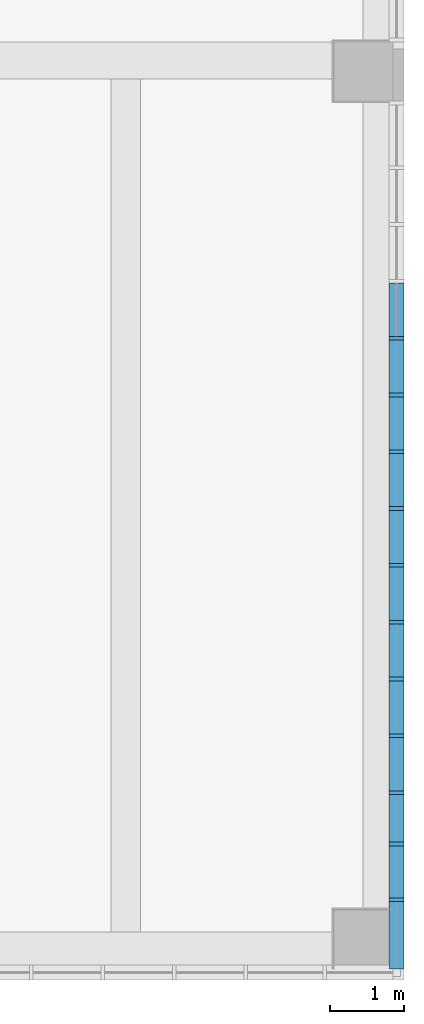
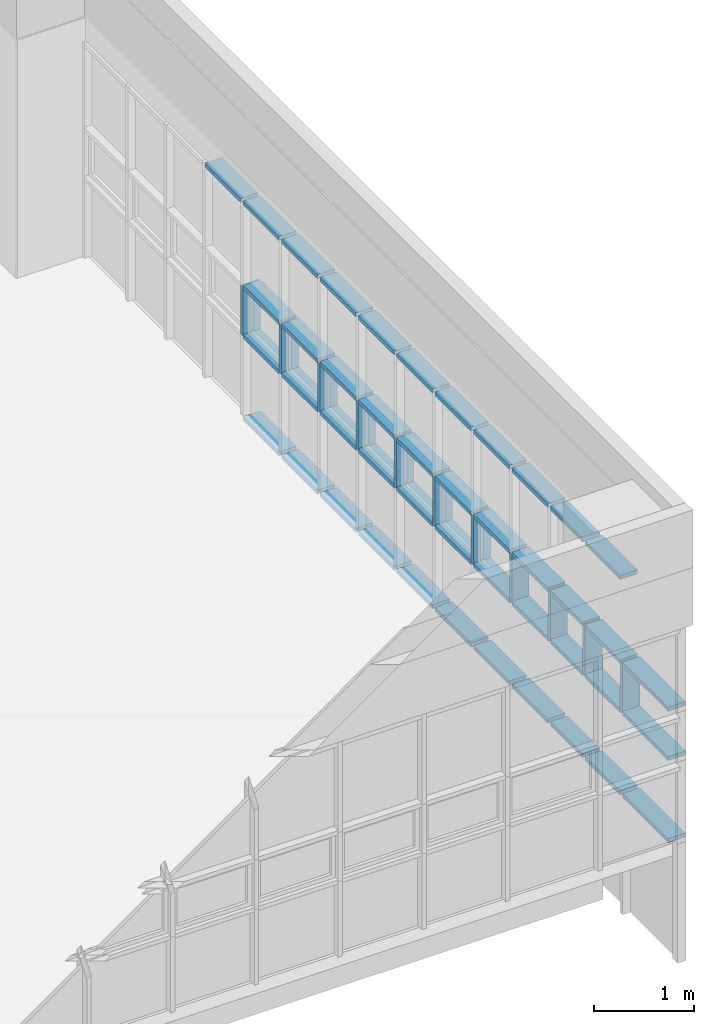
# One storey, part 19 of 81: 55 members, 1 element without a shape of its own.
"""IFC2X3 building model written with IfcOpenShell, lengths in millimetres."""

from ifc_helpers import new_model, entity, si_unit, converted_unit, derived_unit, direction, frame, origin, origin_2d_with_axis, place, context, subcontext, project, spatial, rectangle, extrude, source, transform, mapped, material, type_object, type_shapes, element, aggregate, save


model = new_model("IFC2X3")

# Units and contexts
model_context = context("Model", 3, precision=0.01, world=origin(), true_north=direction((6.123031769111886e-17, 1.0)))
body_context = subcontext(model_context, "Body", "Model", "MODEL_VIEW")
ifc_project = project(units=[si_unit("LENGTHUNIT", "METRE", prefix="MILLI"), si_unit("AREAUNIT", "SQUARE_METRE"), si_unit("VOLUMEUNIT", "CUBIC_METRE"), converted_unit("PLANEANGLEUNIT", "DEGREE", entity("IfcRatioMeasure", 0.017453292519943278), si_unit("PLANEANGLEUNIT", "RADIAN"), dimensions=[0, 0, 0, 0, 0, 0, 0]), si_unit("MASSUNIT", "GRAM", prefix="KILO"), derived_unit("MASSDENSITYUNIT", [(si_unit("MASSUNIT", "GRAM", prefix="KILO"), 1), (si_unit("LENGTHUNIT", "METRE"), -3)]), derived_unit("MOMENTOFINERTIAUNIT", [(si_unit("LENGTHUNIT", "METRE"), 4)]), si_unit("TIMEUNIT", "SECOND"), si_unit("FREQUENCYUNIT", "HERTZ"), si_unit("THERMODYNAMICTEMPERATUREUNIT", "DEGREE_CELSIUS"), derived_unit("THERMALTRANSMITTANCEUNIT", [(si_unit("MASSUNIT", "GRAM", prefix="KILO"), 1), (si_unit("THERMODYNAMICTEMPERATUREUNIT", "KELVIN"), -1), (si_unit("TIMEUNIT", "SECOND"), -3)]), derived_unit("VOLUMETRICFLOWRATEUNIT", [(si_unit("LENGTHUNIT", "METRE"), 3), (si_unit("TIMEUNIT", "SECOND"), -1)]), derived_unit("MASSFLOWRATEUNIT", [(si_unit("MASSUNIT", "GRAM", prefix="KILO"), 1), (si_unit("TIMEUNIT", "SECOND"), -1)]), derived_unit("ROTATIONALFREQUENCYUNIT", [(si_unit("TIMEUNIT", "SECOND"), -1)]), si_unit("ELECTRICCURRENTUNIT", "AMPERE"), si_unit("ELECTRICVOLTAGEUNIT", "VOLT"), si_unit("POWERUNIT", "WATT"), si_unit("FORCEUNIT", "NEWTON", prefix="KILO"), si_unit("ILLUMINANCEUNIT", "LUX"), si_unit("LUMINOUSFLUXUNIT", "LUMEN"), si_unit("LUMINOUSINTENSITYUNIT", "CANDELA"), derived_unit("USERDEFINED", [(si_unit("MASSUNIT", "GRAM", prefix="KILO"), -1), (si_unit("LENGTHUNIT", "METRE"), -2), (si_unit("TIMEUNIT", "SECOND"), 3), (si_unit("LUMINOUSFLUXUNIT", "LUMEN"), 1)]), derived_unit("SOUNDPOWERUNIT", [(si_unit("MASSUNIT", "GRAM", prefix="KILO"), 1), (si_unit("LENGTHUNIT", "METRE"), 2), (si_unit("TIMEUNIT", "SECOND"), -3)]), derived_unit("SOUNDPRESSUREUNIT", [(si_unit("MASSUNIT", "GRAM", prefix="KILO"), 1), (si_unit("LENGTHUNIT", "METRE"), -1), (si_unit("TIMEUNIT", "SECOND"), -2)]), derived_unit("LINEARVELOCITYUNIT", [(si_unit("LENGTHUNIT", "METRE"), 1), (si_unit("TIMEUNIT", "SECOND"), -1)]), si_unit("PRESSUREUNIT", "PASCAL"), derived_unit("USERDEFINED", [(si_unit("LENGTHUNIT", "METRE"), -2), (si_unit("MASSUNIT", "GRAM", prefix="KILO"), 1), (si_unit("TIMEUNIT", "SECOND"), -2)]), derived_unit("LINEARFORCEUNIT", [(si_unit("MASSUNIT", "GRAM", prefix="KILO"), 1), (si_unit("LENGTHUNIT", "METRE"), 1), (si_unit("TIMEUNIT", "SECOND"), -2), (si_unit("LENGTHUNIT", "METRE"), -1)]), derived_unit("PLANARFORCEUNIT", [(si_unit("MASSUNIT", "GRAM", prefix="KILO"), 1), (si_unit("LENGTHUNIT", "METRE"), 1), (si_unit("TIMEUNIT", "SECOND"), -2), (si_unit("LENGTHUNIT", "METRE"), -2)])], contexts=[model_context])

# Site, building, storey
site_placement = place(None, frame((-14167.972527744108, -657.2125860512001, 0.0)))
site = spatial("IfcSite", under=ifc_project, at=site_placement, Name="Default", CompositionType="ELEMENT")
building_placement = place(site_placement, origin())
building = spatial("IfcBuilding", under=site, at=building_placement, Name="Sample Building", CompositionType="ELEMENT")
storey_placement = place(building_placement, frame((0.0, 0.0, 13400.0)))
storey = spatial("IfcBuildingStorey", under=building, at=storey_placement, Name="지상 4층", CompositionType="ELEMENT", Elevation=13400.00000000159)

# Curtain wall, members
curtain_wall_type = type_object("IfcCurtainWallType", Name="커튼월:CW112-스테인리스 스틸 커튼월", PredefinedType="NOTDEFINED")
curtain_wall_placement = place(storey_placement, frame((0.0, 0.0, -13400.0)))
curtain_wall = element("IfcCurtainWall", 1, at=curtain_wall_placement, inside=storey, type_object=curtain_wall_type, Name="커튼월:CW112-스테인리스 스틸 커튼월", ObjectType="커튼월:CW112-스테인리스 스틸 커튼월")
ifc_material = material(Name="<Unnamed>")
member_type_1 = type_object("IfcMemberType", Name="직사각형 멀리언:CW200-직사각형 멀리언 50x200mm", PredefinedType="MULLION", material=ifc_material)
shared_shape_1 = source(origin(), body_context, "Body", "SweptSolid", [
    extrude(rectangle(XDim=200.0, YDim=50.0, at=origin_2d_with_axis()), frame((0.0, 0.0, -600.0), z_axis=(0.0, 0.0, 1.0), x_axis=(0.0, -1.0, 0.0)), (0.0, 0.0, 1.0), 599.9999999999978),
])
type_shapes(member_type_1, [shared_shape_1])
member_1_placement = place(curtain_wall_placement, frame((51517.96382893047, 3699.7830363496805, 14450.0), z_axis=(0.0, 0.0, -1.0), x_axis=(0.0, -1.0, 0.0)))
member_1 = element("IfcMember", 2, at=member_1_placement, type_object=member_type_1, material=ifc_material, Name="직사각형 멀리언:CW200-직사각형 멀리언 50x200mm", ObjectType="직사각형 멀리언:CW200-직사각형 멀리언 50x200mm", context=body_context, shape_type="MappedRepresentation", body=[
    mapped(shared_shape_1, transform((0.0, 0.0, 0.0), scale=1.0)),
])
member_2_placement = place(curtain_wall_placement, frame((51517.96382893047, 2933.7830363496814, 14450.0), z_axis=(0.0, 0.0, -1.0), x_axis=(0.0, -1.0, 0.0)))
member_2 = element("IfcMember", 3, at=member_2_placement, type_object=member_type_1, material=ifc_material, Name="직사각형 멀리언:CW200-직사각형 멀리언 50x200mm", ObjectType="직사각형 멀리언:CW200-직사각형 멀리언 50x200mm", context=body_context, shape_type="MappedRepresentation", body=[
    mapped(shared_shape_1, transform((0.0, 0.0, 0.0), scale=1.0)),
])
member_3_placement = place(curtain_wall_placement, frame((51517.96382893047, 2241.783036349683, 14450.0), z_axis=(0.0, 0.0, -1.0), x_axis=(0.0, -1.0, 0.0)))
member_3 = element("IfcMember", 4, at=member_3_placement, type_object=member_type_1, material=ifc_material, Name="직사각형 멀리언:CW200-직사각형 멀리언 50x200mm", ObjectType="직사각형 멀리언:CW200-직사각형 멀리언 50x200mm", context=body_context, shape_type="MappedRepresentation", body=[
    mapped(shared_shape_1, transform((0.0, 0.0, 0.0), scale=1.0)),
])
member_4_placement = place(curtain_wall_placement, frame((51517.96382893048, 1489.7830363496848, 14450.0), z_axis=(0.0, 0.0, -1.0), x_axis=(0.0, -1.0, 0.0)))
member_4 = element("IfcMember", 5, at=member_4_placement, type_object=member_type_1, material=ifc_material, Name="직사각형 멀리언:CW200-직사각형 멀리언 50x200mm", ObjectType="직사각형 멀리언:CW200-직사각형 멀리언 50x200mm", context=body_context, shape_type="MappedRepresentation", body=[
    mapped(shared_shape_1, transform((0.0, 0.0, 0.0), scale=1.0)),
])
member_5_placement = place(curtain_wall_placement, frame((51517.96382893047, 4465.78303634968, 14450.0), z_axis=(0.0, 0.0, -1.0), x_axis=(0.0, -1.0, 0.0)))
member_5 = element("IfcMember", 6, at=member_5_placement, type_object=member_type_1, material=ifc_material, Name="직사각형 멀리언:CW200-직사각형 멀리언 50x200mm", ObjectType="직사각형 멀리언:CW200-직사각형 멀리언 50x200mm", context=body_context, shape_type="MappedRepresentation", body=[
    mapped(shared_shape_1, transform((0.0, 0.0, 0.0), scale=1.0)),
])
member_6_placement = place(curtain_wall_placement, frame((51517.96382893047, 5231.783036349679, 14450.0), z_axis=(0.0, 0.0, -1.0), x_axis=(0.0, -1.0, 0.0)))
member_6 = element("IfcMember", 7, at=member_6_placement, type_object=member_type_1, material=ifc_material, Name="직사각형 멀리언:CW200-직사각형 멀리언 50x200mm", ObjectType="직사각형 멀리언:CW200-직사각형 멀리언 50x200mm", context=body_context, shape_type="MappedRepresentation", body=[
    mapped(shared_shape_1, transform((0.0, 0.0, 0.0), scale=1.0)),
])
member_7_placement = place(curtain_wall_placement, frame((51517.96382893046, 5997.783036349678, 14450.0), z_axis=(0.0, 0.0, -1.0), x_axis=(0.0, -1.0, 0.0)))
member_7 = element("IfcMember", 8, at=member_7_placement, type_object=member_type_1, material=ifc_material, Name="직사각형 멀리언:CW200-직사각형 멀리언 50x200mm", ObjectType="직사각형 멀리언:CW200-직사각형 멀리언 50x200mm", context=body_context, shape_type="MappedRepresentation", body=[
    mapped(shared_shape_1, transform((0.0, 0.0, 0.0), scale=1.0)),
])
member_8_placement = place(curtain_wall_placement, frame((51517.96382893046, 6763.783036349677, 14450.0), z_axis=(0.0, 0.0, -1.0), x_axis=(0.0, -1.0, 0.0)))
member_8 = element("IfcMember", 9, at=member_8_placement, type_object=member_type_1, material=ifc_material, Name="직사각형 멀리언:CW200-직사각형 멀리언 50x200mm", ObjectType="직사각형 멀리언:CW200-직사각형 멀리언 50x200mm", context=body_context, shape_type="MappedRepresentation", body=[
    mapped(shared_shape_1, transform((0.0, 0.0, 0.0), scale=1.0)),
])
member_9_placement = place(curtain_wall_placement, frame((51517.96382893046, 7529.783036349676, 14450.0), z_axis=(0.0, 0.0, -1.0), x_axis=(0.0, -1.0, 0.0)))
member_9 = element("IfcMember", 10, at=member_9_placement, type_object=member_type_1, material=ifc_material, Name="직사각형 멀리언:CW200-직사각형 멀리언 50x200mm", ObjectType="직사각형 멀리언:CW200-직사각형 멀리언 50x200mm", context=body_context, shape_type="MappedRepresentation", body=[
    mapped(shared_shape_1, transform((0.0, 0.0, 0.0), scale=1.0)),
])
member_10_placement = place(curtain_wall_placement, frame((51517.96382893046, 8295.783036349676, 14450.0), z_axis=(0.0, 0.0, -1.0), x_axis=(0.0, -1.0, 0.0)))
member_10 = element("IfcMember", 11, at=member_10_placement, type_object=member_type_1, material=ifc_material, Name="직사각형 멀리언:CW200-직사각형 멀리언 50x200mm", ObjectType="직사각형 멀리언:CW200-직사각형 멀리언 50x200mm", context=body_context, shape_type="MappedRepresentation", body=[
    mapped(shared_shape_1, transform((0.0, 0.0, 0.0), scale=1.0)),
])
member_11_placement = place(curtain_wall_placement, frame((51517.96382893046, 9061.783036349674, 14450.0), z_axis=(0.0, 0.0, -1.0), x_axis=(0.0, -1.0, 0.0)))
member_11 = element("IfcMember", 12, at=member_11_placement, type_object=member_type_1, material=ifc_material, Name="직사각형 멀리언:CW200-직사각형 멀리언 50x200mm", ObjectType="직사각형 멀리언:CW200-직사각형 멀리언 50x200mm", context=body_context, shape_type="MappedRepresentation", body=[
    mapped(shared_shape_1, transform((0.0, 0.0, 0.0), scale=1.0)),
])
member_type_2 = type_object("IfcMemberType", Name="직사각형 멀리언:CW200-직사각형 멀리언 50x200mm", PredefinedType="MULLION", material=ifc_material)
shared_shape_2 = source(origin(), body_context, "Body", "SweptSolid", [
    extrude(rectangle(XDim=200.0, YDim=50.0, at=origin_2d_with_axis()), frame((-25.0, 0.0, -716.0), z_axis=(0.0, 0.0, 1.0), x_axis=(0.0, -1.0, 0.0)), (0.0, 0.0, 1.0), 715.9999999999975),
])
type_shapes(member_type_2, [shared_shape_2])
member_12_placement = place(curtain_wall_placement, frame((51517.96382893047, 3724.78303634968, 16100.0), z_axis=(0.0, -1.0, 0.0), x_axis=(0.0, 0.0, 1.0)))
member_12 = element("IfcMember", 13, at=member_12_placement, type_object=member_type_2, material=ifc_material, Name="직사각형 멀리언:CW200-직사각형 멀리언 50x200mm", ObjectType="직사각형 멀리언:CW200-직사각형 멀리언 50x200mm", context=body_context, shape_type="MappedRepresentation", body=[
    mapped(shared_shape_2, transform((0.0, 0.0, 0.0), scale=1.0)),
])
member_13_placement = place(curtain_wall_placement, frame((51517.96382893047, 2958.783036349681, 16100.0), z_axis=(0.0, -1.0, 0.0), x_axis=(0.0, 0.0, 1.0)))
member_13 = element("IfcMember", 14, at=member_13_placement, type_object=member_type_2, material=ifc_material, Name="직사각형 멀리언:CW200-직사각형 멀리언 50x200mm", ObjectType="직사각형 멀리언:CW200-직사각형 멀리언 50x200mm", context=body_context, shape_type="MappedRepresentation", body=[
    mapped(shared_shape_2, transform((0.0, 0.0, 0.0), scale=1.0)),
])
member_14_placement = place(curtain_wall_placement, frame((51517.96382893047, 4490.78303634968, 16100.0), z_axis=(0.0, -1.0, 0.0), x_axis=(0.0, 0.0, 1.0)))
member_14 = element("IfcMember", 15, at=member_14_placement, type_object=member_type_2, material=ifc_material, Name="직사각형 멀리언:CW200-직사각형 멀리언 50x200mm", ObjectType="직사각형 멀리언:CW200-직사각형 멀리언 50x200mm", context=body_context, shape_type="MappedRepresentation", body=[
    mapped(shared_shape_2, transform((0.0, 0.0, 0.0), scale=1.0)),
])
member_15_placement = place(curtain_wall_placement, frame((51517.96382893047, 5256.783036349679, 16100.0), z_axis=(0.0, -1.0, 0.0), x_axis=(0.0, 0.0, 1.0)))
member_15 = element("IfcMember", 16, at=member_15_placement, type_object=member_type_2, material=ifc_material, Name="직사각형 멀리언:CW200-직사각형 멀리언 50x200mm", ObjectType="직사각형 멀리언:CW200-직사각형 멀리언 50x200mm", context=body_context, shape_type="MappedRepresentation", body=[
    mapped(shared_shape_2, transform((0.0, 0.0, 0.0), scale=1.0)),
])
member_16_placement = place(curtain_wall_placement, frame((51517.96382893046, 6022.783036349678, 16100.0), z_axis=(0.0, -1.0, 0.0), x_axis=(0.0, 0.0, 1.0)))
member_16 = element("IfcMember", 17, at=member_16_placement, type_object=member_type_2, material=ifc_material, Name="직사각형 멀리언:CW200-직사각형 멀리언 50x200mm", ObjectType="직사각형 멀리언:CW200-직사각형 멀리언 50x200mm", context=body_context, shape_type="MappedRepresentation", body=[
    mapped(shared_shape_2, transform((0.0, 0.0, 0.0), scale=1.0)),
])
member_17_placement = place(curtain_wall_placement, frame((51517.96382893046, 6788.783036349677, 16100.0), z_axis=(0.0, -1.0, 0.0), x_axis=(0.0, 0.0, 1.0)))
member_17 = element("IfcMember", 18, at=member_17_placement, type_object=member_type_2, material=ifc_material, Name="직사각형 멀리언:CW200-직사각형 멀리언 50x200mm", ObjectType="직사각형 멀리언:CW200-직사각형 멀리언 50x200mm", context=body_context, shape_type="MappedRepresentation", body=[
    mapped(shared_shape_2, transform((0.0, 0.0, 0.0), scale=1.0)),
])
member_18_placement = place(curtain_wall_placement, frame((51517.96382893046, 7554.783036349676, 16100.0), z_axis=(0.0, -1.0, 0.0), x_axis=(0.0, 0.0, 1.0)))
member_18 = element("IfcMember", 19, at=member_18_placement, type_object=member_type_2, material=ifc_material, Name="직사각형 멀리언:CW200-직사각형 멀리언 50x200mm", ObjectType="직사각형 멀리언:CW200-직사각형 멀리언 50x200mm", context=body_context, shape_type="MappedRepresentation", body=[
    mapped(shared_shape_2, transform((0.0, 0.0, 0.0), scale=1.0)),
])
member_19_placement = place(curtain_wall_placement, frame((51517.96382893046, 8320.783036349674, 16100.0), z_axis=(0.0, -1.0, 0.0), x_axis=(0.0, 0.0, 1.0)))
member_19 = element("IfcMember", 20, at=member_19_placement, type_object=member_type_2, material=ifc_material, Name="직사각형 멀리언:CW200-직사각형 멀리언 50x200mm", ObjectType="직사각형 멀리언:CW200-직사각형 멀리언 50x200mm", context=body_context, shape_type="MappedRepresentation", body=[
    mapped(shared_shape_2, transform((0.0, 0.0, 0.0), scale=1.0)),
])
member_type_3 = type_object("IfcMemberType", Name="직사각형 멀리언:CW200-직사각형 멀리언 50x200mm", PredefinedType="MULLION", material=ifc_material)
shared_shape_3 = source(origin(), body_context, "Body", "SweptSolid", [
    extrude(rectangle(XDim=200.0, YDim=50.0, at=origin_2d_with_axis()), frame((0.0, 0.0, -716.0), z_axis=(0.0, 0.0, 1.0), x_axis=(0.0, -1.0, 0.0)), (0.0, 0.0, 1.0), 715.9999999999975),
])
type_shapes(member_type_3, [shared_shape_3])
member_20_placement = place(curtain_wall_placement, frame((51517.96382893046, 8320.783036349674, 14450.0), z_axis=(0.0, -1.0, 0.0), x_axis=(0.0, 0.0, 1.0)))
member_20 = element("IfcMember", 21, at=member_20_placement, type_object=member_type_3, material=ifc_material, Name="직사각형 멀리언:CW200-직사각형 멀리언 50x200mm", ObjectType="직사각형 멀리언:CW200-직사각형 멀리언 50x200mm", context=body_context, shape_type="MappedRepresentation", body=[
    mapped(shared_shape_3, transform((0.0, 0.0, 0.0), scale=1.0)),
])
member_21_placement = place(curtain_wall_placement, frame((51517.96382893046, 8320.783036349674, 15050.0), z_axis=(0.0, -1.0, 0.0), x_axis=(0.0, 0.0, 1.0)))
member_21 = element("IfcMember", 22, at=member_21_placement, type_object=member_type_3, material=ifc_material, Name="직사각형 멀리언:CW200-직사각형 멀리언 50x200mm", ObjectType="직사각형 멀리언:CW200-직사각형 멀리언 50x200mm", context=body_context, shape_type="MappedRepresentation", body=[
    mapped(shared_shape_3, transform((0.0, 0.0, 0.0), scale=1.0)),
])
member_22_placement = place(curtain_wall_placement, frame((51517.96382893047, 2958.783036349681, 14450.0), z_axis=(0.0, -1.0, 0.0), x_axis=(0.0, 0.0, 1.0)))
member_22 = element("IfcMember", 23, at=member_22_placement, type_object=member_type_3, material=ifc_material, Name="직사각형 멀리언:CW200-직사각형 멀리언 50x200mm", ObjectType="직사각형 멀리언:CW200-직사각형 멀리언 50x200mm", context=body_context, shape_type="MappedRepresentation", body=[
    mapped(shared_shape_3, transform((0.0, 0.0, 0.0), scale=1.0)),
])
member_23_placement = place(curtain_wall_placement, frame((51517.96382893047, 2958.783036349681, 15050.0), z_axis=(0.0, -1.0, 0.0), x_axis=(0.0, 0.0, 1.0)))
member_23 = element("IfcMember", 24, at=member_23_placement, type_object=member_type_3, material=ifc_material, Name="직사각형 멀리언:CW200-직사각형 멀리언 50x200mm", ObjectType="직사각형 멀리언:CW200-직사각형 멀리언 50x200mm", context=body_context, shape_type="MappedRepresentation", body=[
    mapped(shared_shape_3, transform((0.0, 0.0, 0.0), scale=1.0)),
])
member_24_placement = place(curtain_wall_placement, frame((51517.96382893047, 3724.78303634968, 14450.0), z_axis=(0.0, -1.0, 0.0), x_axis=(0.0, 0.0, 1.0)))
member_24 = element("IfcMember", 25, at=member_24_placement, type_object=member_type_3, material=ifc_material, Name="직사각형 멀리언:CW200-직사각형 멀리언 50x200mm", ObjectType="직사각형 멀리언:CW200-직사각형 멀리언 50x200mm", context=body_context, shape_type="MappedRepresentation", body=[
    mapped(shared_shape_3, transform((0.0, 0.0, 0.0), scale=1.0)),
])
member_25_placement = place(curtain_wall_placement, frame((51517.96382893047, 3724.78303634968, 15050.0), z_axis=(0.0, -1.0, 0.0), x_axis=(0.0, 0.0, 1.0)))
member_25 = element("IfcMember", 26, at=member_25_placement, type_object=member_type_3, material=ifc_material, Name="직사각형 멀리언:CW200-직사각형 멀리언 50x200mm", ObjectType="직사각형 멀리언:CW200-직사각형 멀리언 50x200mm", context=body_context, shape_type="MappedRepresentation", body=[
    mapped(shared_shape_3, transform((0.0, 0.0, 0.0), scale=1.0)),
])
member_26_placement = place(curtain_wall_placement, frame((51517.96382893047, 4490.78303634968, 14450.0), z_axis=(0.0, -1.0, 0.0), x_axis=(0.0, 0.0, 1.0)))
member_26 = element("IfcMember", 27, at=member_26_placement, type_object=member_type_3, material=ifc_material, Name="직사각형 멀리언:CW200-직사각형 멀리언 50x200mm", ObjectType="직사각형 멀리언:CW200-직사각형 멀리언 50x200mm", context=body_context, shape_type="MappedRepresentation", body=[
    mapped(shared_shape_3, transform((0.0, 0.0, 0.0), scale=1.0)),
])
member_27_placement = place(curtain_wall_placement, frame((51517.96382893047, 4490.78303634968, 15050.0), z_axis=(0.0, -1.0, 0.0), x_axis=(0.0, 0.0, 1.0)))
member_27 = element("IfcMember", 28, at=member_27_placement, type_object=member_type_3, material=ifc_material, Name="직사각형 멀리언:CW200-직사각형 멀리언 50x200mm", ObjectType="직사각형 멀리언:CW200-직사각형 멀리언 50x200mm", context=body_context, shape_type="MappedRepresentation", body=[
    mapped(shared_shape_3, transform((0.0, 0.0, 0.0), scale=1.0)),
])
member_28_placement = place(curtain_wall_placement, frame((51517.96382893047, 5256.783036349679, 14450.0), z_axis=(0.0, -1.0, 0.0), x_axis=(0.0, 0.0, 1.0)))
member_28 = element("IfcMember", 29, at=member_28_placement, type_object=member_type_3, material=ifc_material, Name="직사각형 멀리언:CW200-직사각형 멀리언 50x200mm", ObjectType="직사각형 멀리언:CW200-직사각형 멀리언 50x200mm", context=body_context, shape_type="MappedRepresentation", body=[
    mapped(shared_shape_3, transform((0.0, 0.0, 0.0), scale=1.0)),
])
member_29_placement = place(curtain_wall_placement, frame((51517.96382893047, 5256.783036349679, 15050.0), z_axis=(0.0, -1.0, 0.0), x_axis=(0.0, 0.0, 1.0)))
member_29 = element("IfcMember", 30, at=member_29_placement, type_object=member_type_3, material=ifc_material, Name="직사각형 멀리언:CW200-직사각형 멀리언 50x200mm", ObjectType="직사각형 멀리언:CW200-직사각형 멀리언 50x200mm", context=body_context, shape_type="MappedRepresentation", body=[
    mapped(shared_shape_3, transform((0.0, 0.0, 0.0), scale=1.0)),
])
member_30_placement = place(curtain_wall_placement, frame((51517.96382893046, 6022.783036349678, 14450.0), z_axis=(0.0, -1.0, 0.0), x_axis=(0.0, 0.0, 1.0)))
member_30 = element("IfcMember", 31, at=member_30_placement, type_object=member_type_3, material=ifc_material, Name="직사각형 멀리언:CW200-직사각형 멀리언 50x200mm", ObjectType="직사각형 멀리언:CW200-직사각형 멀리언 50x200mm", context=body_context, shape_type="MappedRepresentation", body=[
    mapped(shared_shape_3, transform((0.0, 0.0, 0.0), scale=1.0)),
])
member_31_placement = place(curtain_wall_placement, frame((51517.96382893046, 6022.783036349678, 15050.0), z_axis=(0.0, -1.0, 0.0), x_axis=(0.0, 0.0, 1.0)))
member_31 = element("IfcMember", 32, at=member_31_placement, type_object=member_type_3, material=ifc_material, Name="직사각형 멀리언:CW200-직사각형 멀리언 50x200mm", ObjectType="직사각형 멀리언:CW200-직사각형 멀리언 50x200mm", context=body_context, shape_type="MappedRepresentation", body=[
    mapped(shared_shape_3, transform((0.0, 0.0, 0.0), scale=1.0)),
])
member_32_placement = place(curtain_wall_placement, frame((51517.96382893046, 6788.783036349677, 14450.0), z_axis=(0.0, -1.0, 0.0), x_axis=(0.0, 0.0, 1.0)))
member_32 = element("IfcMember", 33, at=member_32_placement, type_object=member_type_3, material=ifc_material, Name="직사각형 멀리언:CW200-직사각형 멀리언 50x200mm", ObjectType="직사각형 멀리언:CW200-직사각형 멀리언 50x200mm", context=body_context, shape_type="MappedRepresentation", body=[
    mapped(shared_shape_3, transform((0.0, 0.0, 0.0), scale=1.0)),
])
member_33_placement = place(curtain_wall_placement, frame((51517.96382893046, 6788.783036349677, 15050.0), z_axis=(0.0, -1.0, 0.0), x_axis=(0.0, 0.0, 1.0)))
member_33 = element("IfcMember", 34, at=member_33_placement, type_object=member_type_3, material=ifc_material, Name="직사각형 멀리언:CW200-직사각형 멀리언 50x200mm", ObjectType="직사각형 멀리언:CW200-직사각형 멀리언 50x200mm", context=body_context, shape_type="MappedRepresentation", body=[
    mapped(shared_shape_3, transform((0.0, 0.0, 0.0), scale=1.0)),
])
member_34_placement = place(curtain_wall_placement, frame((51517.96382893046, 7554.783036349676, 14450.0), z_axis=(0.0, -1.0, 0.0), x_axis=(0.0, 0.0, 1.0)))
member_34 = element("IfcMember", 35, at=member_34_placement, type_object=member_type_3, material=ifc_material, Name="직사각형 멀리언:CW200-직사각형 멀리언 50x200mm", ObjectType="직사각형 멀리언:CW200-직사각형 멀리언 50x200mm", context=body_context, shape_type="MappedRepresentation", body=[
    mapped(shared_shape_3, transform((0.0, 0.0, 0.0), scale=1.0)),
])
member_35_placement = place(curtain_wall_placement, frame((51517.96382893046, 7554.783036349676, 15050.0), z_axis=(0.0, -1.0, 0.0), x_axis=(0.0, 0.0, 1.0)))
member_35 = element("IfcMember", 36, at=member_35_placement, type_object=member_type_3, material=ifc_material, Name="직사각형 멀리언:CW200-직사각형 멀리언 50x200mm", ObjectType="직사각형 멀리언:CW200-직사각형 멀리언 50x200mm", context=body_context, shape_type="MappedRepresentation", body=[
    mapped(shared_shape_3, transform((0.0, 0.0, 0.0), scale=1.0)),
])
member_type_4 = type_object("IfcMemberType", Name="직사각형 멀리언:CW200-직사각형 멀리언 50x200mm", PredefinedType="MULLION", material=ifc_material)
shared_shape_4 = source(origin(), body_context, "Body", "SweptSolid", [
    extrude(rectangle(XDim=200.0, YDim=50.0, at=origin_2d_with_axis()), frame((0.0, 0.0, -642.0), z_axis=(0.0, 0.0, 1.0), x_axis=(0.0, -1.0, 0.0)), (0.0, 0.0, 1.0), 641.9999999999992),
])
type_shapes(member_type_4, [shared_shape_4])
member_36_placement = place(curtain_wall_placement, frame((51517.96382893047, 2266.783036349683, 14450.0), z_axis=(0.0, -1.0, 0.0), x_axis=(0.0, 0.0, 1.0)))
member_36 = element("IfcMember", 37, at=member_36_placement, type_object=member_type_4, material=ifc_material, Name="직사각형 멀리언:CW200-직사각형 멀리언 50x200mm", ObjectType="직사각형 멀리언:CW200-직사각형 멀리언 50x200mm", context=body_context, shape_type="MappedRepresentation", body=[
    mapped(shared_shape_4, transform((0.0, 0.0, 0.0), scale=1.0)),
])
member_37_placement = place(curtain_wall_placement, frame((51517.96382893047, 2266.783036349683, 15050.0), z_axis=(0.0, -1.0, 0.0), x_axis=(0.0, 0.0, 1.0)))
member_37 = element("IfcMember", 38, at=member_37_placement, type_object=member_type_4, material=ifc_material, Name="직사각형 멀리언:CW200-직사각형 멀리언 50x200mm", ObjectType="직사각형 멀리언:CW200-직사각형 멀리언 50x200mm", context=body_context, shape_type="MappedRepresentation", body=[
    mapped(shared_shape_4, transform((0.0, 0.0, 0.0), scale=1.0)),
])
member_type_5 = type_object("IfcMemberType", Name="직사각형 멀리언:CW200-직사각형 멀리언 50x200mm", PredefinedType="MULLION", material=ifc_material)
shared_shape_5 = source(origin(), body_context, "Body", "SweptSolid", [
    extrude(rectangle(XDim=200.0, YDim=50.0, at=origin_2d_with_axis()), frame((-25.0, 0.0, -642.0), z_axis=(0.0, 0.0, 1.0), x_axis=(0.0, -1.0, 0.0)), (0.0, 0.0, 1.0), 641.9999999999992),
])
type_shapes(member_type_5, [shared_shape_5])
member_38_placement = place(curtain_wall_placement, frame((51517.96382893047, 2266.783036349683, 16100.0), z_axis=(0.0, -1.0, 0.0), x_axis=(0.0, 0.0, 1.0)))
member_38 = element("IfcMember", 39, at=member_38_placement, type_object=member_type_5, material=ifc_material, Name="직사각형 멀리언:CW200-직사각형 멀리언 50x200mm", ObjectType="직사각형 멀리언:CW200-직사각형 멀리언 50x200mm", context=body_context, shape_type="MappedRepresentation", body=[
    mapped(shared_shape_5, transform((0.0, 0.0, 0.0), scale=1.0)),
])
member_type_6 = type_object("IfcMemberType", Name="직사각형 멀리언:CW200-직사각형 멀리언 50x200mm", PredefinedType="MULLION", material=ifc_material)
shared_shape_6 = source(origin(), body_context, "Body", "SweptSolid", [
    extrude(rectangle(XDim=200.0, YDim=50.0, at=origin_2d_with_axis()), frame((0.0, 0.0, -702.0), z_axis=(0.0, 0.0, 1.0), x_axis=(0.0, -1.0, 0.0)), (0.0, 0.0, 1.0), 701.9999999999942),
])
type_shapes(member_type_6, [shared_shape_6])
member_39_placement = place(curtain_wall_placement, frame((51517.96382893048, 1514.7830363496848, 14450.0), z_axis=(0.0, -1.0, 0.0), x_axis=(0.0, 0.0, 1.0)))
member_39 = element("IfcMember", 40, at=member_39_placement, type_object=member_type_6, material=ifc_material, Name="직사각형 멀리언:CW200-직사각형 멀리언 50x200mm", ObjectType="직사각형 멀리언:CW200-직사각형 멀리언 50x200mm", context=body_context, shape_type="MappedRepresentation", body=[
    mapped(shared_shape_6, transform((0.0, 0.0, 0.0), scale=1.0)),
])
member_40_placement = place(curtain_wall_placement, frame((51517.96382893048, 1514.7830363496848, 15050.0), z_axis=(0.0, -1.0, 0.0), x_axis=(0.0, 0.0, 1.0)))
member_40 = element("IfcMember", 41, at=member_40_placement, type_object=member_type_6, material=ifc_material, Name="직사각형 멀리언:CW200-직사각형 멀리언 50x200mm", ObjectType="직사각형 멀리언:CW200-직사각형 멀리언 50x200mm", context=body_context, shape_type="MappedRepresentation", body=[
    mapped(shared_shape_6, transform((0.0, 0.0, 0.0), scale=1.0)),
])
member_type_7 = type_object("IfcMemberType", Name="직사각형 멀리언:CW200-직사각형 멀리언 50x200mm", PredefinedType="MULLION", material=ifc_material)
shared_shape_7 = source(origin(), body_context, "Body", "SweptSolid", [
    extrude(rectangle(XDim=200.0, YDim=50.0, at=origin_2d_with_axis()), frame((-25.0, 0.0, -702.0), z_axis=(0.0, 0.0, 1.0), x_axis=(0.0, -1.0, 0.0)), (0.0, 0.0, 1.0), 701.9999999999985),
])
type_shapes(member_type_7, [shared_shape_7])
member_41_placement = place(curtain_wall_placement, frame((51517.96382893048, 1514.7830363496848, 16100.0), z_axis=(0.0, -1.0, 0.0), x_axis=(0.0, 0.0, 1.0)))
member_41 = element("IfcMember", 42, at=member_41_placement, type_object=member_type_7, material=ifc_material, Name="직사각형 멀리언:CW200-직사각형 멀리언 50x200mm", ObjectType="직사각형 멀리언:CW200-직사각형 멀리언 50x200mm", context=body_context, shape_type="MappedRepresentation", body=[
    mapped(shared_shape_7, transform((0.0, 0.0, 0.0), scale=1.0)),
])
member_type_8 = type_object("IfcMemberType", Name="직사각형 멀리언:CW200-직사각형 멀리언 50x200mm", PredefinedType="MULLION", material=ifc_material)
shared_shape_8 = source(origin(), body_context, "Body", "SweptSolid", [
    extrude(rectangle(XDim=200.0, YDim=50.0, at=origin_2d_with_axis()), frame((0.0, 0.0, -716.0), z_axis=(0.0, 0.0, 1.0), x_axis=(0.0, -1.0, 0.0)), (0.0, 0.0, 1.0), 715.9999999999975),
])
type_shapes(member_type_8, [shared_shape_8])
member_42_placement = place(curtain_wall_placement, frame((51517.96382893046, 8320.783036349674, 13450.0), z_axis=(0.0, -1.0, 0.0), x_axis=(0.0, 0.0, 1.0)))
member_42 = element("IfcMember", 43, at=member_42_placement, type_object=member_type_8, material=ifc_material, Name="직사각형 멀리언:CW200-직사각형 멀리언 50x200mm", ObjectType="직사각형 멀리언:CW200-직사각형 멀리언 50x200mm", context=body_context, shape_type="MappedRepresentation", body=[
    mapped(shared_shape_8, transform((0.0, 0.0, 0.0), scale=1.0)),
])
member_43_placement = place(curtain_wall_placement, frame((51517.96382893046, 7554.783036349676, 13450.0), z_axis=(0.0, -1.0, 0.0), x_axis=(0.0, 0.0, 1.0)))
member_43 = element("IfcMember", 44, at=member_43_placement, type_object=member_type_8, material=ifc_material, Name="직사각형 멀리언:CW200-직사각형 멀리언 50x200mm", ObjectType="직사각형 멀리언:CW200-직사각형 멀리언 50x200mm", context=body_context, shape_type="MappedRepresentation", body=[
    mapped(shared_shape_8, transform((0.0, 0.0, 0.0), scale=1.0)),
])
member_44_placement = place(curtain_wall_placement, frame((51517.96382893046, 6788.783036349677, 13450.0), z_axis=(0.0, -1.0, 0.0), x_axis=(0.0, 0.0, 1.0)))
member_44 = element("IfcMember", 45, at=member_44_placement, type_object=member_type_8, material=ifc_material, Name="직사각형 멀리언:CW200-직사각형 멀리언 50x200mm", ObjectType="직사각형 멀리언:CW200-직사각형 멀리언 50x200mm", context=body_context, shape_type="MappedRepresentation", body=[
    mapped(shared_shape_8, transform((0.0, 0.0, 0.0), scale=1.0)),
])
member_45_placement = place(curtain_wall_placement, frame((51517.96382893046, 6022.783036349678, 13450.0), z_axis=(0.0, -1.0, 0.0), x_axis=(0.0, 0.0, 1.0)))
member_45 = element("IfcMember", 46, at=member_45_placement, type_object=member_type_8, material=ifc_material, Name="직사각형 멀리언:CW200-직사각형 멀리언 50x200mm", ObjectType="직사각형 멀리언:CW200-직사각형 멀리언 50x200mm", context=body_context, shape_type="MappedRepresentation", body=[
    mapped(shared_shape_8, transform((0.0, 0.0, 0.0), scale=1.0)),
])
member_46_placement = place(curtain_wall_placement, frame((51517.96382893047, 5256.783036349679, 13450.0), z_axis=(0.0, -1.0, 0.0), x_axis=(0.0, 0.0, 1.0)))
member_46 = element("IfcMember", 47, at=member_46_placement, type_object=member_type_8, material=ifc_material, Name="직사각형 멀리언:CW200-직사각형 멀리언 50x200mm", ObjectType="직사각형 멀리언:CW200-직사각형 멀리언 50x200mm", context=body_context, shape_type="MappedRepresentation", body=[
    mapped(shared_shape_8, transform((0.0, 0.0, 0.0), scale=1.0)),
])
member_47_placement = place(curtain_wall_placement, frame((51517.96382893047, 4490.78303634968, 13450.0), z_axis=(0.0, -1.0, 0.0), x_axis=(0.0, 0.0, 1.0)))
member_47 = element("IfcMember", 48, at=member_47_placement, type_object=member_type_8, material=ifc_material, Name="직사각형 멀리언:CW200-직사각형 멀리언 50x200mm", ObjectType="직사각형 멀리언:CW200-직사각형 멀리언 50x200mm", context=body_context, shape_type="MappedRepresentation", body=[
    mapped(shared_shape_8, transform((0.0, 0.0, 0.0), scale=1.0)),
])
member_48_placement = place(curtain_wall_placement, frame((51517.96382893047, 3724.78303634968, 13450.0), z_axis=(0.0, -1.0, 0.0), x_axis=(0.0, 0.0, 1.0)))
member_48 = element("IfcMember", 49, at=member_48_placement, type_object=member_type_8, material=ifc_material, Name="직사각형 멀리언:CW200-직사각형 멀리언 50x200mm", ObjectType="직사각형 멀리언:CW200-직사각형 멀리언 50x200mm", context=body_context, shape_type="MappedRepresentation", body=[
    mapped(shared_shape_8, transform((0.0, 0.0, 0.0), scale=1.0)),
])
member_49_placement = place(curtain_wall_placement, frame((51517.96382893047, 2958.783036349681, 13450.0), z_axis=(0.0, -1.0, 0.0), x_axis=(0.0, 0.0, 1.0)))
member_49 = element("IfcMember", 50, at=member_49_placement, type_object=member_type_8, material=ifc_material, Name="직사각형 멀리언:CW200-직사각형 멀리언 50x200mm", ObjectType="직사각형 멀리언:CW200-직사각형 멀리언 50x200mm", context=body_context, shape_type="MappedRepresentation", body=[
    mapped(shared_shape_8, transform((0.0, 0.0, 0.0), scale=1.0)),
])
member_type_9 = type_object("IfcMemberType", Name="직사각형 멀리언:CW200-직사각형 멀리언 50x200mm", PredefinedType="MULLION", material=ifc_material)
shared_shape_9 = source(origin(), body_context, "Body", "SweptSolid", [
    extrude(rectangle(XDim=200.0, YDim=50.0, at=origin_2d_with_axis()), frame((-25.0, 0.0, -716.0), z_axis=(0.0, 0.0, 1.0), x_axis=(0.0, -1.0, 0.0)), (0.0, 0.0, 1.0), 715.9999999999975),
])
type_shapes(member_type_9, [shared_shape_9])
member_50_placement = place(curtain_wall_placement, frame((51517.96382893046, 9086.783036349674, 16100.0), z_axis=(0.0, -1.0, 0.0), x_axis=(0.0, 0.0, 1.0)))
member_50 = element("IfcMember", 51, at=member_50_placement, type_object=member_type_9, material=ifc_material, Name="직사각형 멀리언:CW200-직사각형 멀리언 50x200mm", ObjectType="직사각형 멀리언:CW200-직사각형 멀리언 50x200mm", context=body_context, shape_type="MappedRepresentation", body=[
    mapped(shared_shape_9, transform((0.0, 0.0, 0.0), scale=1.0)),
])
member_type_10 = type_object("IfcMemberType", Name="직사각형 멀리언:CW200-직사각형 멀리언 50x200mm", PredefinedType="MULLION", material=ifc_material)
shared_shape_10 = source(origin(), body_context, "Body", "SweptSolid", [
    extrude(rectangle(XDim=200.0, YDim=50.0, at=origin_2d_with_axis()), frame((0.0, 0.0, -907.605411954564), z_axis=(0.0, 0.0, 1.0), x_axis=(0.0, -1.0, 0.0)), (0.0, 0.0, 1.0), 907.605411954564),
])
type_shapes(member_type_10, [shared_shape_10])
member_51_placement = place(curtain_wall_placement, frame((51517.96382893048, 557.177624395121, 14450.0), z_axis=(0.0, -1.0, 0.0), x_axis=(0.0, 0.0, 1.0)))
member_51 = element("IfcMember", 52, at=member_51_placement, type_object=member_type_10, material=ifc_material, Name="직사각형 멀리언:CW200-직사각형 멀리언 50x200mm", ObjectType="직사각형 멀리언:CW200-직사각형 멀리언 50x200mm", context=body_context, shape_type="MappedRepresentation", body=[
    mapped(shared_shape_10, transform((0.0, 0.0, 0.0), scale=1.0)),
])
member_52_placement = place(curtain_wall_placement, frame((51517.96382893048, 557.177624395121, 15050.0), z_axis=(0.0, -1.0, 0.0), x_axis=(0.0, 0.0, 1.0)))
member_52 = element("IfcMember", 53, at=member_52_placement, type_object=member_type_10, material=ifc_material, Name="직사각형 멀리언:CW200-직사각형 멀리언 50x200mm", ObjectType="직사각형 멀리언:CW200-직사각형 멀리언 50x200mm", context=body_context, shape_type="MappedRepresentation", body=[
    mapped(shared_shape_10, transform((0.0, 0.0, 0.0), scale=1.0)),
])
member_type_11 = type_object("IfcMemberType", Name="직사각형 멀리언:CW200-직사각형 멀리언 50x200mm", PredefinedType="MULLION", material=ifc_material)
shared_shape_11 = source(origin(), body_context, "Body", "SweptSolid", [
    extrude(rectangle(XDim=200.0, YDim=50.0, at=origin_2d_with_axis()), frame((0.0, 0.0, -642.0), z_axis=(0.0, 0.0, 1.0), x_axis=(0.0, -1.0, 0.0)), (0.0, 0.0, 1.0), 641.9999999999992),
])
type_shapes(member_type_11, [shared_shape_11])
member_53_placement = place(curtain_wall_placement, frame((51517.96382893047, 2266.783036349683, 13450.0), z_axis=(0.0, -1.0, 0.0), x_axis=(0.0, 0.0, 1.0)))
member_53 = element("IfcMember", 54, at=member_53_placement, type_object=member_type_11, material=ifc_material, Name="직사각형 멀리언:CW200-직사각형 멀리언 50x200mm", ObjectType="직사각형 멀리언:CW200-직사각형 멀리언 50x200mm", context=body_context, shape_type="MappedRepresentation", body=[
    mapped(shared_shape_11, transform((0.0, 0.0, 0.0), scale=1.0)),
])
member_type_12 = type_object("IfcMemberType", Name="직사각형 멀리언:CW200-직사각형 멀리언 50x200mm", PredefinedType="MULLION", material=ifc_material)
shared_shape_12 = source(origin(), body_context, "Body", "SweptSolid", [
    extrude(rectangle(XDim=200.0, YDim=50.0, at=origin_2d_with_axis()), frame((0.0, 0.0, -702.0), z_axis=(0.0, 0.0, 1.0), x_axis=(0.0, -1.0, 0.0)), (0.0, 0.0, 1.0), 701.9999999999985),
])
type_shapes(member_type_12, [shared_shape_12])
member_54_placement = place(curtain_wall_placement, frame((51517.96382893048, 1514.7830363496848, 13450.0), z_axis=(0.0, -1.0, 0.0), x_axis=(0.0, 0.0, 1.0)))
member_54 = element("IfcMember", 55, at=member_54_placement, type_object=member_type_12, material=ifc_material, Name="직사각형 멀리언:CW200-직사각형 멀리언 50x200mm", ObjectType="직사각형 멀리언:CW200-직사각형 멀리언 50x200mm", context=body_context, shape_type="MappedRepresentation", body=[
    mapped(shared_shape_12, transform((0.0, 0.0, 0.0), scale=1.0)),
])
member_type_13 = type_object("IfcMemberType", Name="직사각형 멀리언:CW200-직사각형 멀리언 50x200mm", PredefinedType="MULLION", material=ifc_material)
shared_shape_13 = source(origin(), body_context, "Body", "SweptSolid", [
    extrude(rectangle(XDim=200.0, YDim=50.0, at=origin_2d_with_axis()), frame((0.0, 0.0, -907.605411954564), z_axis=(0.0, 0.0, 1.0), x_axis=(0.0, -1.0, 0.0)), (0.0, 0.0, 1.0), 907.605411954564),
])
type_shapes(member_type_13, [shared_shape_13])
member_55_placement = place(curtain_wall_placement, frame((51517.96382893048, 557.177624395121, 13450.0), z_axis=(0.0, -1.0, 0.0), x_axis=(0.0, 0.0, 1.0)))
member_55 = element("IfcMember", 56, at=member_55_placement, type_object=member_type_13, material=ifc_material, Name="직사각형 멀리언:CW200-직사각형 멀리언 50x200mm", ObjectType="직사각형 멀리언:CW200-직사각형 멀리언 50x200mm", context=body_context, shape_type="MappedRepresentation", body=[
    mapped(shared_shape_13, transform((0.0, 0.0, 0.0), scale=1.0)),
])
aggregate(curtain_wall, [member_20, member_21, member_12, member_22, member_23, member_1, member_13, member_36, member_37, member_2, member_38, member_39, member_40, member_3, member_41, member_51, member_52, member_4, member_24, member_25, member_14, member_5, member_26, member_27, member_15, member_6, member_28, member_29, member_16, member_7, member_8, member_30, member_31, member_17, member_9, member_32, member_33, member_18, member_10, member_34, member_35, member_19, member_11, member_42, member_43, member_44, member_45, member_46, member_47, member_48, member_49, member_53, member_54, member_55, member_50])

save(model, "model.ifc")
